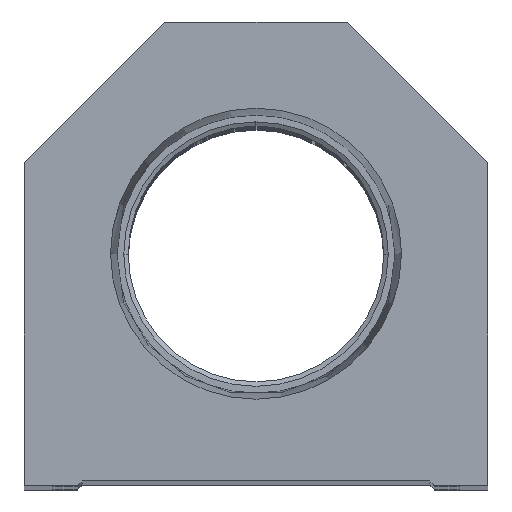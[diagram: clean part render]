
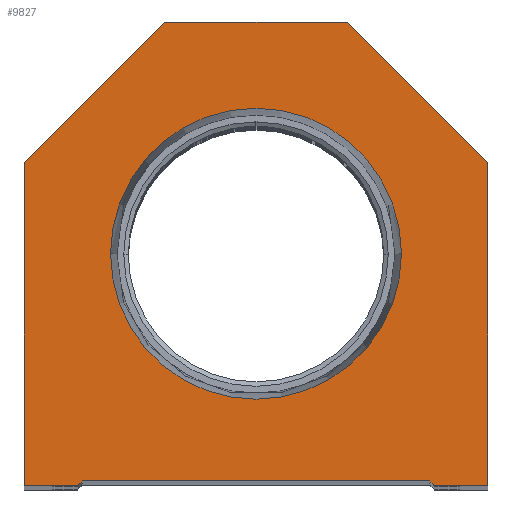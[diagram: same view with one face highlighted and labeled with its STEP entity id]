
A CAD part, top view. The second image highlights one B-rep face of the part: STEP entity #9827.
In plain terms, the highlighted planar face has unit normal (0, 0, 1).
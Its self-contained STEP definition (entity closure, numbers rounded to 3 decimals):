
#280 = CARTESIAN_POINT ( 'NONE',  ( 9.775, 9.775, 0. ) ) ;
#378 = LINE ( 'NONE', #13248, #3829 ) ;
#390 = DIRECTION ( 'NONE',  ( -0.707, 0.707, 0. ) ) ;
#432 = ORIENTED_EDGE ( 'NONE', *, *, #21026, .F. ) ;
#504 = LINE ( 'NONE', #280, #6028 ) ;
#838 = CARTESIAN_POINT ( 'NONE',  ( -19.05, 0., 0. ) ) ;
#868 = VECTOR ( 'NONE', #6283, 1000. ) ;
#997 = ORIENTED_EDGE ( 'NONE', *, *, #9264, .T. ) ;
#1092 = CARTESIAN_POINT ( 'NONE',  ( 10., 50.8, 0. ) ) ;
#1259 = AXIS2_PLACEMENT_3D ( 'NONE', #12132, #1376, #20956 ) ;
#1376 = DIRECTION ( 'NONE',  ( 0., 0., 1. ) ) ;
#1419 = CARTESIAN_POINT ( 'NONE',  ( -19.55, 0., 0. ) ) ;
#1463 = ORIENTED_EDGE ( 'NONE', *, *, #2159, .F. ) ;
#2159 = EDGE_CURVE ( 'NONE', #13144, #4782, #5185, .T. ) ;
#2234 = VECTOR ( 'NONE', #390, 1000. ) ;
#2436 = CARTESIAN_POINT ( 'NONE',  ( -25.4, 35.4, 0. ) ) ;
#2602 = DIRECTION ( 'NONE',  ( 0.707, 0.707, 0. ) ) ;
#3105 = DIRECTION ( 'NONE',  ( 1., 0., 0. ) ) ;
#3235 = VERTEX_POINT ( 'NONE', #19637 ) ;
#3385 = VECTOR ( 'NONE', #8446, 1000. ) ;
#3407 = DIRECTION ( 'NONE',  ( 1., 0., 0. ) ) ;
#3705 = EDGE_CURVE ( 'NONE', #3235, #18806, #9097, .T. ) ;
#3767 = CARTESIAN_POINT ( 'NONE',  ( 0., 0., 0. ) ) ;
#3820 = VERTEX_POINT ( 'NONE', #1419 ) ;
#3822 = CARTESIAN_POINT ( 'NONE',  ( -15.947, 25.4, 0. ) ) ;
#3829 = VECTOR ( 'NONE', #22333, 1000. ) ;
#4304 = ORIENTED_EDGE ( 'NONE', *, *, #14578, .T. ) ;
#4356 = DIRECTION ( 'NONE',  ( 0., -1., 0. ) ) ;
#4441 = EDGE_LOOP ( 'NONE', ( #14828, #997, #5936, #19447, #10431, #10485, #4304, #13732, #18157, #10489 ) ) ;
#4782 = VERTEX_POINT ( 'NONE', #15277 ) ;
#5177 = CARTESIAN_POINT ( 'NONE',  ( 19.05, 0.5, 0. ) ) ;
#5185 = CIRCLE ( 'NONE', #17324, 15.947 ) ;
#5415 = DIRECTION ( 'NONE',  ( 1., 0., 0. ) ) ;
#5936 = ORIENTED_EDGE ( 'NONE', *, *, #3705, .T. ) ;
#6028 = VECTOR ( 'NONE', #9394, 1000. ) ;
#6145 = AXIS2_PLACEMENT_3D ( 'NONE', #3767, #12502, #3407 ) ;
#6283 = DIRECTION ( 'NONE',  ( 1., 0., 0. ) ) ;
#6298 = LINE ( 'NONE', #18431, #2234 ) ;
#6553 = CIRCLE ( 'NONE', #1259, 15.947 ) ;
#6566 = VERTEX_POINT ( 'NONE', #7730 ) ;
#6584 = EDGE_CURVE ( 'NONE', #6566, #7238, #378, .T. ) ;
#6814 = EDGE_CURVE ( 'NONE', #18735, #12883, #18626, .T. ) ;
#6856 = VECTOR ( 'NONE', #4356, 1000. ) ;
#7238 = VERTEX_POINT ( 'NONE', #20131 ) ;
#7613 = CARTESIAN_POINT ( 'NONE',  ( 25.4, 0., 0. ) ) ;
#7730 = CARTESIAN_POINT ( 'NONE',  ( 19.55, 0., 0. ) ) ;
#8446 = DIRECTION ( 'NONE',  ( -1., 0., 0. ) ) ;
#9097 = LINE ( 'NONE', #18010, #11959 ) ;
#9264 = EDGE_CURVE ( 'NONE', #3820, #3235, #10163, .T. ) ;
#9394 = DIRECTION ( 'NONE',  ( 0.707, -0.707, 0. ) ) ;
#9560 = CARTESIAN_POINT ( 'NONE',  ( 25.4, 35.4, 0. ) ) ;
#9827 = ADVANCED_FACE ( 'NONE', ( #19672, #21804 ), #17998, .T. ) ;
#10163 = LINE ( 'NONE', #17159, #15915 ) ;
#10431 = ORIENTED_EDGE ( 'NONE', *, *, #6584, .T. ) ;
#10485 = ORIENTED_EDGE ( 'NONE', *, *, #11080, .T. ) ;
#10489 = ORIENTED_EDGE ( 'NONE', *, *, #6814, .T. ) ;
#11080 = EDGE_CURVE ( 'NONE', #7238, #22618, #13486, .T. ) ;
#11959 = VECTOR ( 'NONE', #5415, 1000. ) ;
#12132 = CARTESIAN_POINT ( 'NONE',  ( 0., 25.4, 0. ) ) ;
#12360 = VERTEX_POINT ( 'NONE', #18932 ) ;
#12502 = DIRECTION ( 'NONE',  ( 0., 0., 1. ) ) ;
#12883 = VERTEX_POINT ( 'NONE', #16874 ) ;
#13144 = VERTEX_POINT ( 'NONE', #3822 ) ;
#13248 = CARTESIAN_POINT ( 'NONE',  ( 19.05, 0., 0. ) ) ;
#13364 = EDGE_CURVE ( 'NONE', #15524, #12360, #22814, .T. ) ;
#13486 = LINE ( 'NONE', #7613, #16516 ) ;
#13618 = DIRECTION ( 'NONE',  ( -0.707, -0.707, 0. ) ) ;
#13732 = ORIENTED_EDGE ( 'NONE', *, *, #13364, .T. ) ;
#13746 = CARTESIAN_POINT ( 'NONE',  ( 0., 25.4, 0. ) ) ;
#13923 = EDGE_CURVE ( 'NONE', #18806, #6566, #504, .T. ) ;
#13945 = CARTESIAN_POINT ( 'NONE',  ( 10., 50.8, 0. ) ) ;
#14080 = DIRECTION ( 'NONE',  ( 0., 0., 1. ) ) ;
#14578 = EDGE_CURVE ( 'NONE', #22618, #15524, #6298, .T. ) ;
#14758 = CARTESIAN_POINT ( 'NONE',  ( -25.4, 0., 0. ) ) ;
#14828 = ORIENTED_EDGE ( 'NONE', *, *, #19393, .T. ) ;
#15277 = CARTESIAN_POINT ( 'NONE',  ( 15.947, 25.4, 0. ) ) ;
#15524 = VERTEX_POINT ( 'NONE', #13945 ) ;
#15915 = VECTOR ( 'NONE', #2602, 1000. ) ;
#16516 = VECTOR ( 'NONE', #20664, 1000. ) ;
#16874 = CARTESIAN_POINT ( 'NONE',  ( -25.4, 0., 0. ) ) ;
#17159 = CARTESIAN_POINT ( 'NONE',  ( -9.775, 9.775, 0. ) ) ;
#17324 = AXIS2_PLACEMENT_3D ( 'NONE', #13746, #14080, #3105 ) ;
#17619 = EDGE_CURVE ( 'NONE', #12360, #18735, #22708, .T. ) ;
#17998 = PLANE ( 'NONE',  #6145 ) ;
#18010 = CARTESIAN_POINT ( 'NONE',  ( -19.05, 0.5, 0. ) ) ;
#18157 = ORIENTED_EDGE ( 'NONE', *, *, #17619, .T. ) ;
#18431 = CARTESIAN_POINT ( 'NONE',  ( 25.4, 35.4, 0. ) ) ;
#18626 = LINE ( 'NONE', #14758, #6856 ) ;
#18735 = VERTEX_POINT ( 'NONE', #19811 ) ;
#18806 = VERTEX_POINT ( 'NONE', #5177 ) ;
#18932 = CARTESIAN_POINT ( 'NONE',  ( -10., 50.8, 0. ) ) ;
#18933 = EDGE_LOOP ( 'NONE', ( #432, #1463 ) ) ;
#19393 = EDGE_CURVE ( 'NONE', #12883, #3820, #22097, .T. ) ;
#19447 = ORIENTED_EDGE ( 'NONE', *, *, #13923, .T. ) ;
#19637 = CARTESIAN_POINT ( 'NONE',  ( -19.05, 0.5, 0. ) ) ;
#19672 = FACE_BOUND ( 'NONE', #18933, .T. ) ;
#19811 = CARTESIAN_POINT ( 'NONE',  ( -25.4, 35.4, 0. ) ) ;
#20131 = CARTESIAN_POINT ( 'NONE',  ( 25.4, 0., 0. ) ) ;
#20664 = DIRECTION ( 'NONE',  ( 0., 1., 0. ) ) ;
#20956 = DIRECTION ( 'NONE',  ( 1., 0., 0. ) ) ;
#21026 = EDGE_CURVE ( 'NONE', #4782, #13144, #6553, .T. ) ;
#21804 = FACE_OUTER_BOUND ( 'NONE', #4441, .T. ) ;
#22097 = LINE ( 'NONE', #838, #868 ) ;
#22333 = DIRECTION ( 'NONE',  ( 1., 0., 0. ) ) ;
#22618 = VERTEX_POINT ( 'NONE', #9560 ) ;
#22708 = LINE ( 'NONE', #2436, #23335 ) ;
#22814 = LINE ( 'NONE', #1092, #3385 ) ;
#23335 = VECTOR ( 'NONE', #13618, 1000. ) ;
